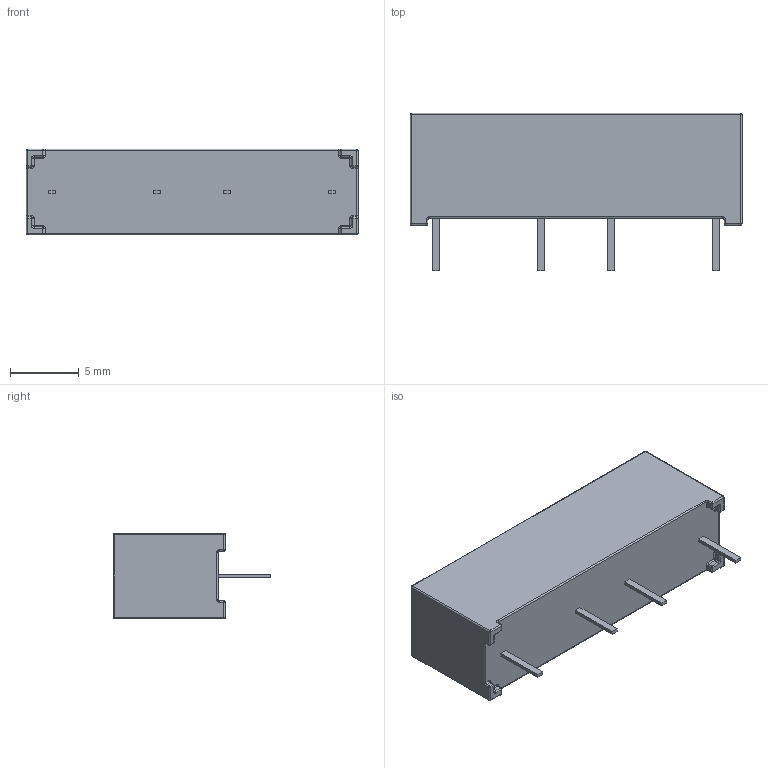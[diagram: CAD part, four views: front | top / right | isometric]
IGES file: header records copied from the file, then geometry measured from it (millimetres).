
Start section: SolidWorks IGES file using analytic representation for surfaces
Global section: file name: T:\ISO2\QMS\DESIGN & DEVELOPMENT\UK PRODUCT\Projects\Open\DD161 144 Series\Series_144 (Website Models)\144-1-A-X-3X.IGS; native system: SolidWorks 2023; preprocessor: SolidWorks 2023; author: Ahmet.Turan; date: 240315.152106; units: millimetre
Bounding box: 24.1 x 11.43 x 6.22 mm (x, y, z)
Surface area: 787.9 mm2 (no closed solid volume)
Topology: 0 solids, 0 shells, 798 faces, 6810 edges, 6782 vertices
Faces by surface type: bspline 698, revolution 100
